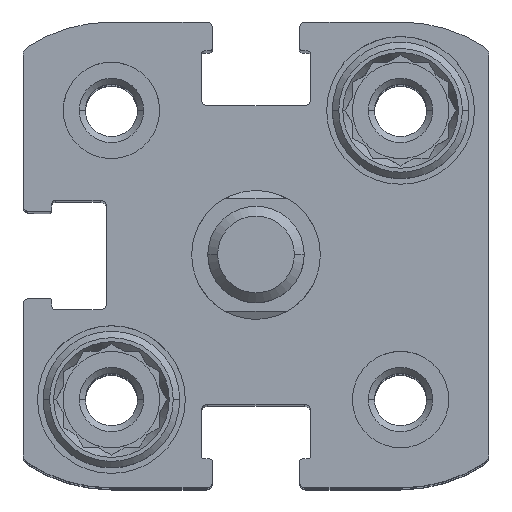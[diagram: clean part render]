
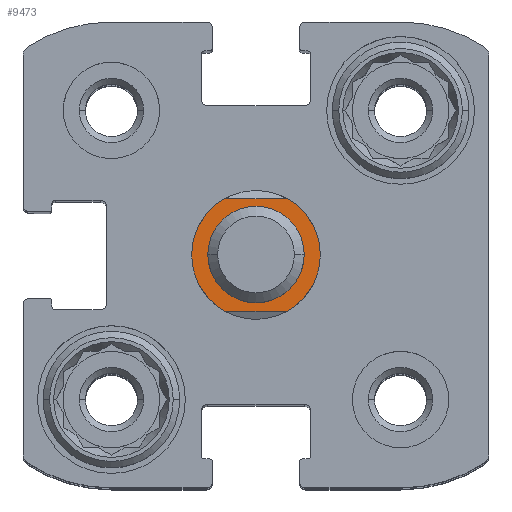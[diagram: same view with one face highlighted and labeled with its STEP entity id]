
A CAD part, top view. The second image highlights one B-rep face of the part: STEP entity #9473.
In plain terms, the highlighted planar face has unit normal (0, 0, 1).
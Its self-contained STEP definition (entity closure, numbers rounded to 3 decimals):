
#10 = AXIS2_PLACEMENT_3D ( 'NONE', #3301, #7691, #11328 ) ;
#99 = AXIS2_PLACEMENT_3D ( 'NONE', #9394, #348, #3993 ) ;
#348 = DIRECTION ( 'NONE',  ( 0., 0., -1. ) ) ;
#369 = PLANE ( 'NONE',  #11773 ) ;
#378 = ORIENTED_EDGE ( 'NONE', *, *, #1622, .T. ) ;
#494 = AXIS2_PLACEMENT_3D ( 'NONE', #940, #3695, #2807 ) ;
#558 = ORIENTED_EDGE ( 'NONE', *, *, #7444, .F. ) ;
#583 = CARTESIAN_POINT ( 'NONE',  ( 0., 0., 5.35 ) ) ;
#910 = ORIENTED_EDGE ( 'NONE', *, *, #7858, .F. ) ;
#940 = CARTESIAN_POINT ( 'NONE',  ( 0., 0., 5.35 ) ) ;
#1130 = EDGE_CURVE ( 'NONE', #11220, #5525, #11155, .T. ) ;
#1604 = CARTESIAN_POINT ( 'NONE',  ( 1.936, 3.5, 5.35 ) ) ;
#1622 = EDGE_CURVE ( 'NONE', #7894, #4043, #8629, .T. ) ;
#1778 = EDGE_CURVE ( 'NONE', #4043, #7894, #7144, .T. ) ;
#1839 = EDGE_CURVE ( 'NONE', #3276, #2852, #3727, .T. ) ;
#1946 = DIRECTION ( 'NONE',  ( 1., 0., 0. ) ) ;
#2011 = LINE ( 'NONE', #7359, #2018 ) ;
#2018 = VECTOR ( 'NONE', #1946, 1000. ) ;
#2229 = DIRECTION ( 'NONE',  ( 0., 0., -1. ) ) ;
#2732 = CARTESIAN_POINT ( 'NONE',  ( 1.936, -3.5, 5.35 ) ) ;
#2807 = DIRECTION ( 'NONE',  ( 1., 0., 0. ) ) ;
#2852 = VERTEX_POINT ( 'NONE', #11702 ) ;
#3276 = VERTEX_POINT ( 'NONE', #5686 ) ;
#3301 = CARTESIAN_POINT ( 'NONE',  ( 0., 0., 5.35 ) ) ;
#3695 = DIRECTION ( 'NONE',  ( 0., 0., -1. ) ) ;
#3727 = CIRCLE ( 'NONE', #10365, 4. ) ;
#3759 = AXIS2_PLACEMENT_3D ( 'NONE', #10185, #4722, #4653 ) ;
#3993 = DIRECTION ( 'NONE',  ( 1., 0., 0. ) ) ;
#4043 = VERTEX_POINT ( 'NONE', #11104 ) ;
#4128 = CIRCLE ( 'NONE', #494, 4. ) ;
#4192 = FACE_OUTER_BOUND ( 'NONE', #10104, .T. ) ;
#4344 = EDGE_CURVE ( 'NONE', #9237, #3276, #4128, .T. ) ;
#4437 = CARTESIAN_POINT ( 'NONE',  ( -2.65, 0., 5.35 ) ) ;
#4476 = CARTESIAN_POINT ( 'NONE',  ( 4., 0., 5.35 ) ) ;
#4653 = DIRECTION ( 'NONE',  ( 1., 0., 0. ) ) ;
#4722 = DIRECTION ( 'NONE',  ( 0., 0., -1. ) ) ;
#4764 = VERTEX_POINT ( 'NONE', #2732 ) ;
#5345 = CIRCLE ( 'NONE', #10, 4. ) ;
#5373 = ORIENTED_EDGE ( 'NONE', *, *, #1778, .T. ) ;
#5452 = DIRECTION ( 'NONE',  ( -1., 0., 0. ) ) ;
#5525 = VERTEX_POINT ( 'NONE', #4476 ) ;
#5534 = DIRECTION ( 'NONE',  ( 1., 0., 0. ) ) ;
#5663 = ORIENTED_EDGE ( 'NONE', *, *, #1839, .F. ) ;
#5686 = CARTESIAN_POINT ( 'NONE',  ( -4., 0., 5.35 ) ) ;
#5929 = EDGE_CURVE ( 'NONE', #2852, #11220, #2011, .T. ) ;
#6730 = ORIENTED_EDGE ( 'NONE', *, *, #4344, .F. ) ;
#6744 = DIRECTION ( 'NONE',  ( 0., -1., 0. ) ) ;
#7144 = CIRCLE ( 'NONE', #99, 2.65 ) ;
#7231 = VECTOR ( 'NONE', #5452, 1000. ) ;
#7313 = CARTESIAN_POINT ( 'NONE',  ( 0., 0., 5.35 ) ) ;
#7359 = CARTESIAN_POINT ( 'NONE',  ( 0., 3.5, 5.35 ) ) ;
#7444 = EDGE_CURVE ( 'NONE', #4764, #9237, #7892, .T. ) ;
#7486 = ORIENTED_EDGE ( 'NONE', *, *, #5929, .F. ) ;
#7691 = DIRECTION ( 'NONE',  ( 0., 0., -1. ) ) ;
#7805 = CARTESIAN_POINT ( 'NONE',  ( 0., 0., 5.35 ) ) ;
#7858 = EDGE_CURVE ( 'NONE', #5525, #4764, #5345, .T. ) ;
#7892 = LINE ( 'NONE', #11525, #7231 ) ;
#7894 = VERTEX_POINT ( 'NONE', #4437 ) ;
#8188 = ORIENTED_EDGE ( 'NONE', *, *, #1130, .F. ) ;
#8518 = FACE_BOUND ( 'NONE', #9191, .T. ) ;
#8629 = CIRCLE ( 'NONE', #9780, 2.65 ) ;
#9191 = EDGE_LOOP ( 'NONE', ( #5373, #378 ) ) ;
#9237 = VERTEX_POINT ( 'NONE', #10728 ) ;
#9394 = CARTESIAN_POINT ( 'NONE',  ( 0., 0., 5.35 ) ) ;
#9473 = ADVANCED_FACE ( 'NONE', ( #4192, #8518 ), #369, .F. ) ;
#9693 = DIRECTION ( 'NONE',  ( 0., 0., -1. ) ) ;
#9780 = AXIS2_PLACEMENT_3D ( 'NONE', #7313, #10057, #5534 ) ;
#10057 = DIRECTION ( 'NONE',  ( 0., 0., -1. ) ) ;
#10104 = EDGE_LOOP ( 'NONE', ( #558, #910, #8188, #7486, #5663, #6730 ) ) ;
#10185 = CARTESIAN_POINT ( 'NONE',  ( 0., 0., 5.35 ) ) ;
#10365 = AXIS2_PLACEMENT_3D ( 'NONE', #583, #9693, #11594 ) ;
#10728 = CARTESIAN_POINT ( 'NONE',  ( -1.936, -3.5, 5.35 ) ) ;
#11104 = CARTESIAN_POINT ( 'NONE',  ( 2.65, 0., 5.35 ) ) ;
#11155 = CIRCLE ( 'NONE', #3759, 4. ) ;
#11220 = VERTEX_POINT ( 'NONE', #1604 ) ;
#11328 = DIRECTION ( 'NONE',  ( 1., 0., 0. ) ) ;
#11525 = CARTESIAN_POINT ( 'NONE',  ( 0., -3.5, 5.35 ) ) ;
#11594 = DIRECTION ( 'NONE',  ( 1., 0., 0. ) ) ;
#11702 = CARTESIAN_POINT ( 'NONE',  ( -1.936, 3.5, 5.35 ) ) ;
#11773 = AXIS2_PLACEMENT_3D ( 'NONE', #7805, #2229, #6744 ) ;
